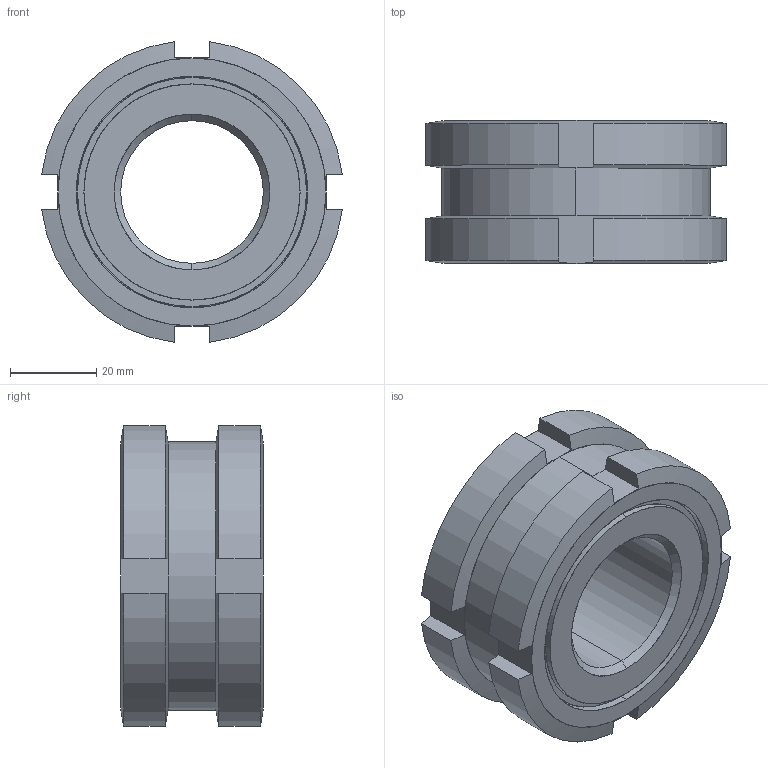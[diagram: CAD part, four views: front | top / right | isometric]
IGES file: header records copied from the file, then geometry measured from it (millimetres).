
Start section: SolidWorks IGES file using analytic representation for surfaces
Global section: file name: C:\Documents and Settings\IanO.IANOHOME\My Documents\Wix and Auto CAD Work\CAD Models\Parametric Models\Wix Models\6200\6200_IGES\6200.W102.igs; native system: SolidWorks 2009; preprocessor: SolidWorks 2009; author: IanO; date: 101017.134419; units: millimetre
Bounding box: 69.54 x 33 x 69.54 mm (x, y, z)
Surface area: 27161.8 mm2 (no closed solid volume)
Topology: 0 solids, 0 shells, 74 faces, 1338 edges, 1338 vertices
Faces by surface type: revolution 42, bspline 32
